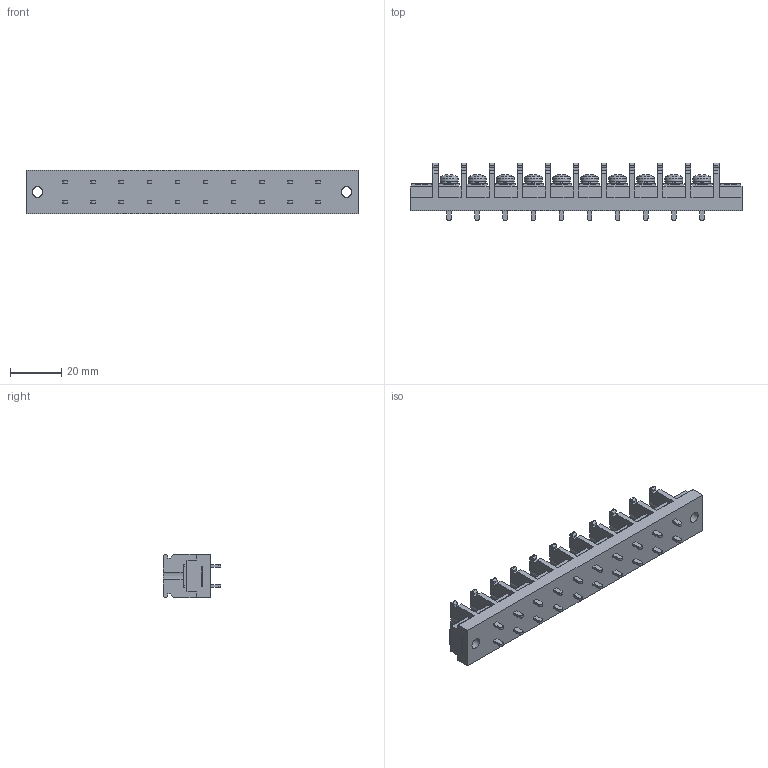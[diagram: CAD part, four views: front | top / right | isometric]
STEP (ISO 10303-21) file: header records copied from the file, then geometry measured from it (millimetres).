
FILE_DESCRIPTION(/* description */ ('Alibre Inc.'),/* implementation_level */ '2;1');
FILE_NAME(/* name */ 'export0',/* time_stamp */ '2015-10-19T19:54:36+09:00',/* author */ (''),/* organization */ (''),/* preprocessor_version */ 'ST-DEVELOPER v14',/* originating_system */ 'Alibre',/* authorisation */ '');
FILE_SCHEMA (('CONFIG_CONTROL_DESIGN'));
Length unit declared in the file: centimetre
Products named in the file (1): ID_1
Bounding box: 130 x 22.5 x 17 mm (x, y, z)
Volume: 23685.4 mm3; surface area: 13395 mm2
Topology: 1 solids, 1 shells, 1244 faces, 3446 edges, 2288 vertices
Faces by surface type: plane 878, cylinder 192, bspline 104, cone 40, torus 20, sphere 10
Full cylindrical faces by diameter (mm): 4 x12, 4.2 x2, 6.5 x10, 7 x10
Entity records: 38375 total; most frequent: CARTESIAN_POINT 8076, ORIENTED_EDGE 6740, DIRECTION 5109, EDGE_CURVE 3370, VECTOR 2387, LINE 2387, VERTEX_POINT 2256, AXIS2_PLACEMENT_3D 1785
